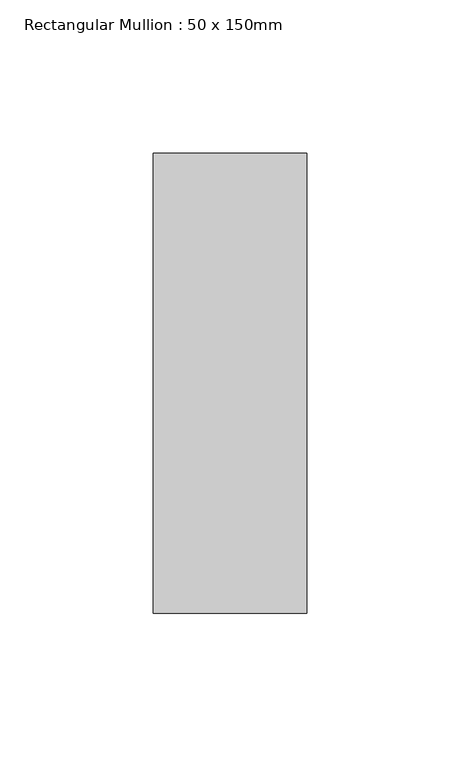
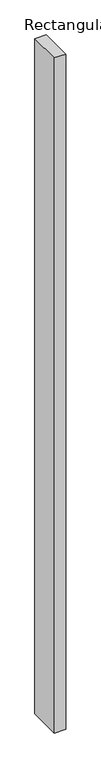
"""IFC4 building model written with IfcOpenShell, lengths in millimetres: member geometry, Rectangular Mullion : 50 x 150mm."""

from ifc_helpers import new_model, si_unit, frame, origin, place, context, project, spatial, polyline, outline, extrude, source, transform, mapped, element, save


def rectangular_mullion_50_x_150mm_eae7d4bc(model_context):
    return source(origin(), model_context, "Body", "SweptSolid", [
        extrude(outline(polyline([(25.0, 75.0), (25.0, -75.0), (-25.0, -75.0), (-25.0, 75.0), (25.0, 75.0)])), frame((0.0, 0.0, -3175.0), z_axis=(0.0, 0.0, 1.0), x_axis=(1.0, 0.0, 0.0)), (0.0, 0.0, 1.0), 3175.0),
    ])


if __name__ == "__main__":
    model = new_model("IFC4")
    model_context = context("Model", 3, world=origin())
    ifc_project = project(units=[si_unit("LENGTHUNIT", "METRE", prefix="MILLI")], contexts=[model_context])
    site = spatial("IfcSite", under=ifc_project)
    building = spatial("IfcBuilding", under=site)
    placement = place(None, origin())
    rectangular_mullion_50_x_150mm_shape = rectangular_mullion_50_x_150mm_eae7d4bc(model_context)
    element("IfcMember", 1, ObjectType="Rectangular Mullion : 50 x 150mm", at=placement, inside=building, context=model_context, shape_type="MappedRepresentation", body=[
        mapped(rectangular_mullion_50_x_150mm_shape, transform((0.0, 0.0, 0.0), x_axis=(1.0, 0.0, 0.0), y_axis=(0.0, 1.0, 0.0), z_axis=(0.0, 0.0, 1.0))),
    ])
    save(model, "model.ifc")
